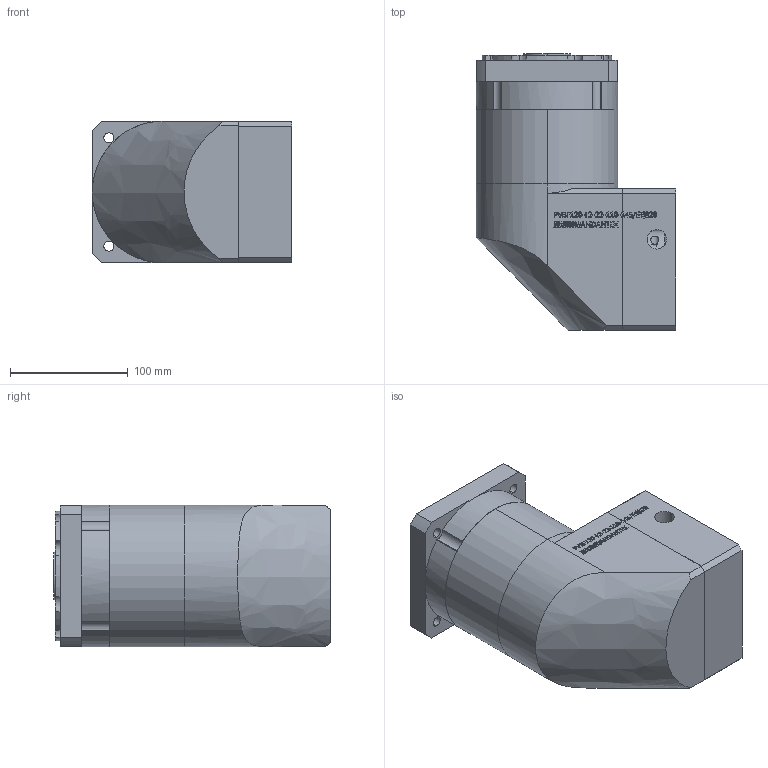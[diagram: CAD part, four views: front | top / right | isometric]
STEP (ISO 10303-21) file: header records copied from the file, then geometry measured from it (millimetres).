
FILE_DESCRIPTION (( 'STEP AP203' ), '1' );
FILE_NAME ('PVBF120-L2--22-110-145-Êä³ö28-B8.STEP', '2023-11-04T00:49:34', ( 'Windows User' ), ( 'P R C' ), 'SwSTEP 2.0', 'SolidWorks 2016', '' );
FILE_SCHEMA (( 'CONFIG_CONTROL_DESIGN' ));
Length unit declared in the file: millimetre
Products named in the file (8): 粣創-3207A 35x72x27_2; B-PVBF120-眊极; PVBF120 內齿圈-优化_二级内齿圈; PVBF120 奻屳唳-謂怀堤-28-B8; PVBF120-蟀諉啣; PVBF120-薊粣ん-梓袧; PVBF120-L2--22-110-145-怀堤28-B8; 螺釘範本 M8x20
Assembly tree (7 placements, depth 2):
  PVBF120-L2--22-110-145-怀堤28-B8
    B-PVBF120-眊极
    PVBF120 內齿圈-优化_二级内齿圈
    PVBF120 奻屳唳-謂怀堤-28-B8
    PVBF120-蟀諉啣
    PVBF120-薊粣ん-梓袧
    螺釘範本 M8x20
    粣創-3207A 35x72x27_2
Bounding box: 169 x 234.5 x 120 mm (x, y, z)
Volume: 2946499.9 mm3; surface area: 321526.6 mm2
Topology: 7 solids, 15 shells, 1296 faces, 3548 edges, 2340 vertices
Faces by surface type: plane 750, bspline 306, cylinder 216, cone 24
Entity records: 52452 total; most frequent: CARTESIAN_POINT 20459, ORIENTED_EDGE 7064, DIRECTION 5498, EDGE_CURVE 3532, VERTEX_POINT 2340, LINE 2172, VECTOR 2172, AXIS2_PLACEMENT_3D 1663
